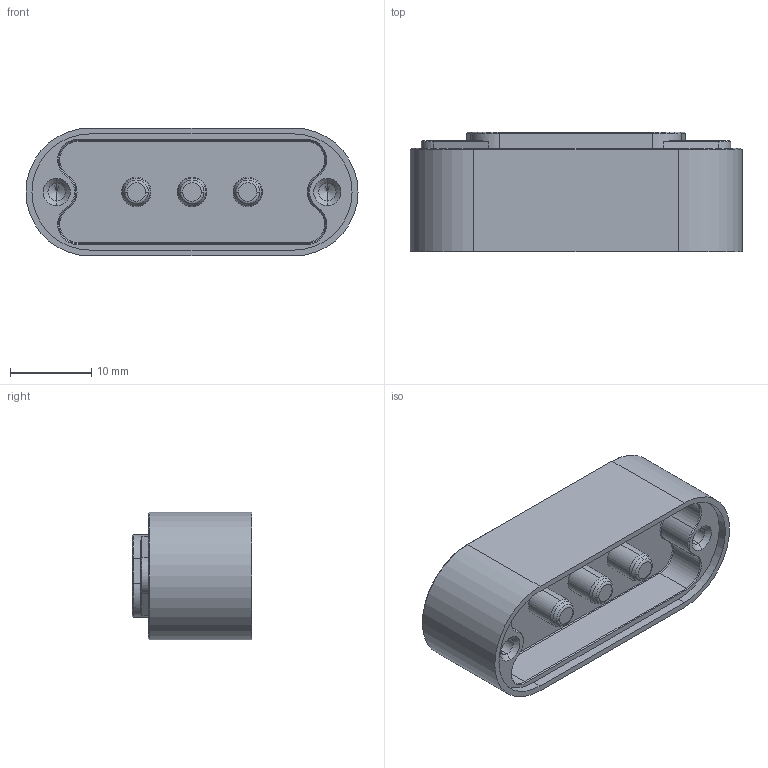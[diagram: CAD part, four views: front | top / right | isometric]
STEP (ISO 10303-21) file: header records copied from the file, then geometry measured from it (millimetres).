
FILE_DESCRIPTION (( 'STEP AP203' ), '1' );
FILE_NAME ('EAG_3PD.stp', '2018-09-27T17:49:24', ( '' ), ( '' ), 'SwSTEP 2.0', 'SolidWorks 2012', '' );
FILE_SCHEMA (( 'CONFIG_CONTROL_DESIGN' ));
Length unit declared in the file: centimetre
Products named in the file (1): EAG_3PD
Bounding box: 40.87 x 14.73 x 15.75 mm (x, y, z)
Volume: 4646.4 mm3; surface area: 3953.4 mm2
Topology: 1 solids, 1 shells, 952 faces, 2592 edges, 1704 vertices
Faces by surface type: bspline 548, plane 308, cone 56, cylinder 40
Entity records: 30840 total; most frequent: CARTESIAN_POINT 10382, ORIENTED_EDGE 5168, EDGE_CURVE 2584, DIRECTION 2521, VERTEX_POINT 1704, LINE 1295, VECTOR 1295, B_SPLINE_CURVE_WITH_KNOTS 1065
